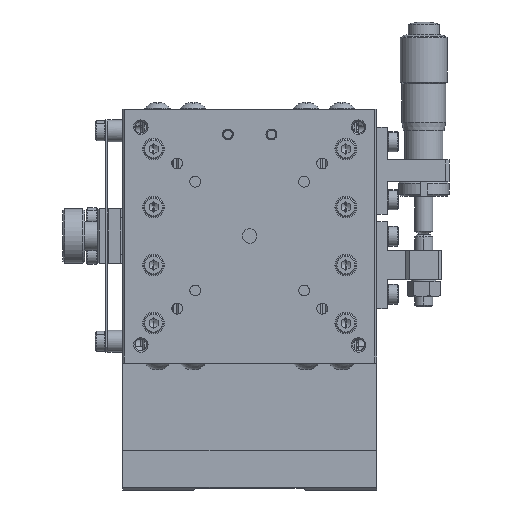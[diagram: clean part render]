
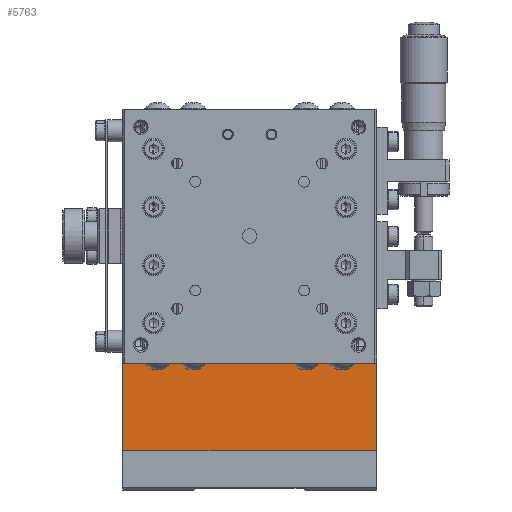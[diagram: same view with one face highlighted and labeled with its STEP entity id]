
A CAD part, front view. The second image highlights one B-rep face of the part: STEP entity #5763.
In plain terms, the highlighted planar face has unit normal (0, -1, 0) as drawn and (0, 0, 1) by its records, which use the part's own axes.
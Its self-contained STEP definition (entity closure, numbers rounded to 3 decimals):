
#5763 = ADVANCED_FACE ( 'NONE', ( #13150 ), #13149, .T. ) ;
#5764 = EDGE_LOOP ( 'NONE', ( #5765, #5766, #5767, #5768 ) ) ;
#5765 = ORIENTED_EDGE ( 'NONE', *, *, #55290, .F. ) ;
#5766 = ORIENTED_EDGE ( 'NONE', *, *, #55927, .F. ) ;
#5767 = ORIENTED_EDGE ( 'NONE', *, *, #55046, .T. ) ;
#5768 = ORIENTED_EDGE ( 'NONE', *, *, #5769, .T. ) ;
#5769 = EDGE_CURVE ( 'NONE', #55044, #55292, #13144, .T. ) ;
#13141 = DIRECTION ( 'NONE',  ( -1., 0., 0. ) ) ;
#13142 = VECTOR ( 'NONE', #13141, 1000. ) ;
#13143 = CARTESIAN_POINT ( 'NONE',  ( 35., 59., 3. ) ) ;
#13144 = LINE ( 'NONE', #13143, #13142 ) ;
#13145 = DIRECTION ( 'NONE',  ( -1., 0., 0. ) ) ;
#13146 = DIRECTION ( 'NONE',  ( 0., 0., 1. ) ) ;
#13147 = CARTESIAN_POINT ( 'NONE',  ( 35., 35., 3. ) ) ;
#13148 = AXIS2_PLACEMENT_3D ( 'NONE', #13147, #13146, #13145 ) ;
#13149 = PLANE ( 'NONE',  #13148 ) ;
#13150 = FACE_OUTER_BOUND ( 'NONE', #5764, .T. ) ;
#32342 = DIRECTION ( 'NONE',  ( 0., 1., 0. ) ) ;
#32343 = VECTOR ( 'NONE', #32342, 1000. ) ;
#32344 = CARTESIAN_POINT ( 'NONE',  ( 35., 35., 3. ) ) ;
#32345 = LINE ( 'NONE', #32344, #32343 ) ;
#32346 = CARTESIAN_POINT ( 'NONE',  ( 35., 59., 3. ) ) ;
#32406 = CARTESIAN_POINT ( 'NONE',  ( 35., 35., 3. ) ) ;
#32792 = CARTESIAN_POINT ( 'NONE',  ( -35., 59., 3. ) ) ;
#32797 = DIRECTION ( 'NONE',  ( 0., 1., 0. ) ) ;
#32798 = VECTOR ( 'NONE', #32797, 1000. ) ;
#32799 = CARTESIAN_POINT ( 'NONE',  ( -35., 35., 3. ) ) ;
#32800 = LINE ( 'NONE', #32799, #32798 ) ;
#32959 = CARTESIAN_POINT ( 'NONE',  ( -35., 35., 3. ) ) ;
#33925 = LINE ( 'NONE', #33986, #33985 ) ;
#33984 = DIRECTION ( 'NONE',  ( -1., 0., 0. ) ) ;
#33985 = VECTOR ( 'NONE', #33984, 1000. ) ;
#33986 = CARTESIAN_POINT ( 'NONE',  ( 35., 35., 3. ) ) ;
#55044 = VERTEX_POINT ( 'NONE', #32346 ) ;
#55046 = EDGE_CURVE ( 'NONE', #55047, #55044, #32345, .T. ) ;
#55047 = VERTEX_POINT ( 'NONE', #32406 ) ;
#55290 = EDGE_CURVE ( 'NONE', #55375, #55292, #32800, .T. ) ;
#55292 = VERTEX_POINT ( 'NONE', #32792 ) ;
#55375 = VERTEX_POINT ( 'NONE', #32959 ) ;
#55927 = EDGE_CURVE ( 'NONE', #55047, #55375, #33925, .T. ) ;
